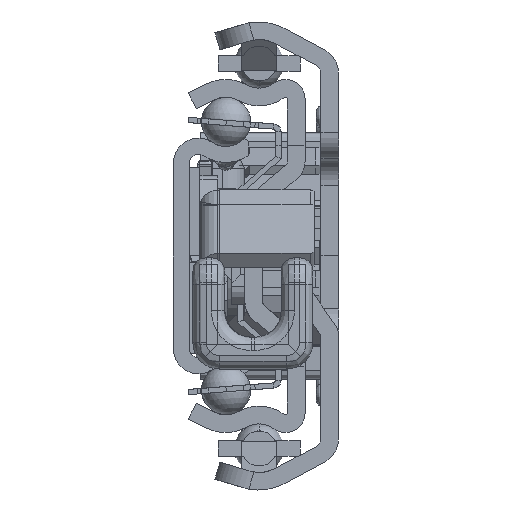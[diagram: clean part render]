
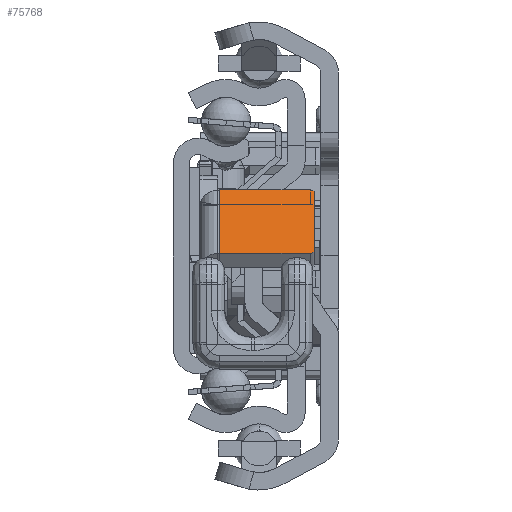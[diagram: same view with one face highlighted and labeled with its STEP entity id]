
A CAD part, left-side view. The second image highlights one B-rep face of the part: STEP entity #75768.
In plain terms, the highlighted planar face has unit normal (-0.597, 0, 0.802) as drawn and (-0.597, -0.802, 0) by its records, which use the part's own axes.
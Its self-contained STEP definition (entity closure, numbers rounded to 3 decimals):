
#75156=DIRECTION('',(0.802,-0.597,0.));
#75157=VECTOR('',#75156,12.);
#75158=CARTESIAN_POINT('',(31.957,-10.314,-0.2));
#75159=LINE('',#75158,#75157);
#75184=DIRECTION('',(0.,0.,1.));
#75185=VECTOR('',#75184,10.3);
#75186=CARTESIAN_POINT('',(41.586,-17.476,-10.5));
#75187=LINE('',#75186,#75185);
#75188=CARTESIAN_POINT('',(41.184,-17.178,-10.5));
#75189=DIRECTION('',(-0.597,-0.802,0.));
#75190=DIRECTION('',(0.,0.,-1.));
#75191=AXIS2_PLACEMENT_3D('',#75188,#75189,#75190);
#75193=DIRECTION('',(0.802,-0.597,0.));
#75194=VECTOR('',#75193,11.);
#75195=CARTESIAN_POINT('',(32.358,-10.613,-11.));
#75196=LINE('',#75195,#75194);
#75197=CARTESIAN_POINT('',(32.358,-10.613,-10.5));
#75198=DIRECTION('',(-0.597,-0.802,0.));
#75199=DIRECTION('',(-0.802,0.597,0.));
#75200=AXIS2_PLACEMENT_3D('',#75197,#75198,#75199);
#75202=DIRECTION('',(0.,0.,-1.));
#75203=VECTOR('',#75202,10.3);
#75204=CARTESIAN_POINT('',(31.957,-10.314,-0.2));
#75205=LINE('',#75204,#75203);
#75422=CARTESIAN_POINT('',(31.957,-10.314,-0.2));
#75423=CARTESIAN_POINT('',(41.586,-17.476,-0.2));
#75424=VERTEX_POINT('',#75422);
#75425=VERTEX_POINT('',#75423);
#75454=CARTESIAN_POINT('',(41.586,-17.476,-10.5));
#75455=VERTEX_POINT('',#75454);
#75456=CARTESIAN_POINT('',(32.358,-10.613,-11.));
#75457=CARTESIAN_POINT('',(41.184,-17.178,-11.));
#75458=VERTEX_POINT('',#75456);
#75459=VERTEX_POINT('',#75457);
#75460=CARTESIAN_POINT('',(31.957,-10.314,-10.5));
#75461=VERTEX_POINT('',#75460);
#75750=CARTESIAN_POINT('',(34.726,-12.374,2.));
#75751=DIRECTION('',(0.597,0.802,0.));
#75752=DIRECTION('',(0.802,-0.597,0.));
#75753=AXIS2_PLACEMENT_3D('',#75750,#75751,#75752);
#75754=PLANE('',#75753);
#75756=ORIENTED_EDGE('',*,*,#75755,.F.);
#75758=ORIENTED_EDGE('',*,*,#75757,.F.);
#75760=ORIENTED_EDGE('',*,*,#75759,.F.);
#75762=ORIENTED_EDGE('',*,*,#75761,.F.);
#75764=ORIENTED_EDGE('',*,*,#75763,.F.);
#75765=ORIENTED_EDGE('',*,*,#75737,.T.);
#75766=EDGE_LOOP('',(#75756,#75758,#75760,#75762,#75764,#75765));
#75767=FACE_OUTER_BOUND('',#75766,.F.);
#75192=CIRCLE('',#75191,0.5);
#75201=CIRCLE('',#75200,0.5);
#75737=EDGE_CURVE('',#75424,#75425,#75159,.T.);
#75755=EDGE_CURVE('',#75455,#75425,#75187,.T.);
#75757=EDGE_CURVE('',#75459,#75455,#75192,.T.);
#75759=EDGE_CURVE('',#75458,#75459,#75196,.T.);
#75761=EDGE_CURVE('',#75461,#75458,#75201,.T.);
#75763=EDGE_CURVE('',#75424,#75461,#75205,.T.);
#75768=ADVANCED_FACE('',(#75767),#75754,.F.);
